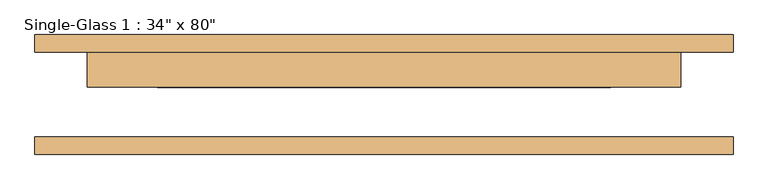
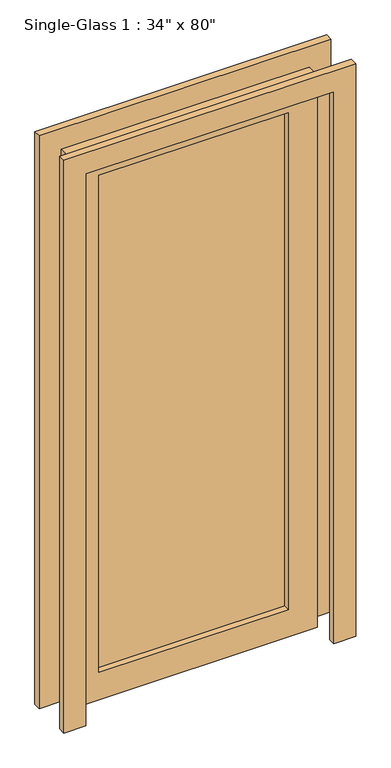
"""IFC4 building model written with IfcOpenShell, lengths in millimetres: door geometry."""

from ifc_helpers import new_model, si_unit, frame, origin, place, context, project, spatial, polyline, outline, extrude, source, transform, mapped, element, save


def door_2696ad5b(model_context):
    return source(origin(), model_context, "Body", "SweptSolid", [
        extrude(outline(polyline([(2032.0, 431.8), (0.0, 431.8), (0.0, 508.0), (2108.2, 508.0), (2108.2, -508.0), (0.0, -508.0), (0.0, -431.8), (2032.0, -431.8), (2032.0, 431.8)])), frame((0.0, -87.3125, 0.0), z_axis=(0.0, 1.0, 0.0), x_axis=(0.0, 0.0, 1.0)), (0.0, 0.0, 1.0), 25.4),
        extrude(outline(polyline([(2032.0, 431.8), (0.0, 431.8), (0.0, 508.0), (2108.2, 508.0), (2108.2, -508.0), (0.0, -508.0), (0.0, -431.8), (2032.0, -431.8), (2032.0, 431.8)])), frame((0.0, 61.9125, 0.0), z_axis=(0.0, 1.0, 0.0), x_axis=(0.0, 0.0, 1.0)), (0.0, 0.0, 1.0), 25.4),
        extrude(outline(polyline([(330.2, 33.3375), (-330.2, 33.3375), (-330.2, 39.6875), (330.2, 39.6875), (330.2, 33.3375)])), frame((0.0, 0.0, 101.6), z_axis=(0.0, 0.0, 1.0), x_axis=(1.0, 0.0, 0.0)), (0.0, 0.0, 1.0), 1828.8),
        extrude(outline(polyline([(2032.0, 431.8), (2032.0, -431.8), (0.0, -431.8), (0.0, 431.8), (2032.0, 431.8)]), holes=[polyline([(1930.4, -330.2), (1930.4, 330.2), (101.6, 330.2), (101.6, -330.2), (1930.4, -330.2)])]), frame((0.0, 11.1125, 0.0), z_axis=(0.0, 1.0, 0.0), x_axis=(0.0, 0.0, 1.0)), (0.0, 0.0, 1.0), 50.8),
    ])


if __name__ == "__main__":
    model = new_model("IFC4")
    model_context = context("Model", 3, world=origin())
    ifc_project = project(units=[si_unit("LENGTHUNIT", "METRE", prefix="MILLI")], contexts=[model_context])
    site = spatial("IfcSite", under=ifc_project)
    building = spatial("IfcBuilding", under=site)
    placement = place(None, origin())
    door_shape = door_2696ad5b(model_context)
    element("IfcDoor", 1, ObjectType="Single-Glass 1 : 34\" x 80\"", at=placement, inside=building, context=model_context, shape_type="MappedRepresentation", body=[
        mapped(door_shape, transform((0.0, 0.0, 0.0), x_axis=(1.0, 0.0, 0.0), y_axis=(0.0, 1.0, 0.0), z_axis=(0.0, 0.0, 1.0))),
    ])
    save(model, "model.ifc")
